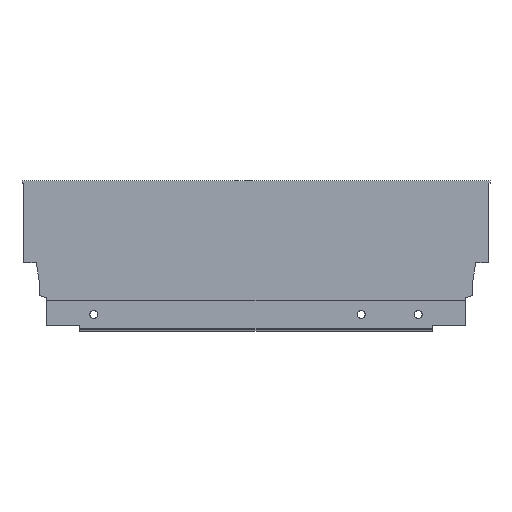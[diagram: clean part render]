
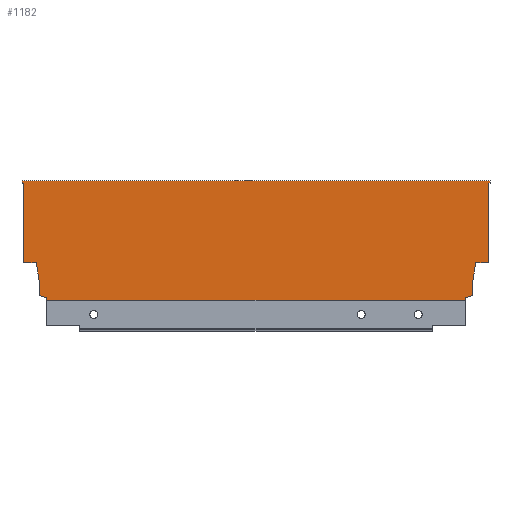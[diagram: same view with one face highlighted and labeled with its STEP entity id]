
A CAD part, top view. The second image highlights one B-rep face of the part: STEP entity #1182.
In plain terms, the highlighted planar face has unit normal (0, 0, 1).
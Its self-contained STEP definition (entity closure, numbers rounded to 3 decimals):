
#97 = VECTOR ( 'NONE', #933, 1000. ) ;
#103 = VECTOR ( 'NONE', #929, 1000. ) ;
#106 = LINE ( 'NONE', #928, #97 ) ;
#107 = VECTOR ( 'NONE', #925, 1000. ) ;
#108 = LINE ( 'NONE', #926, #103 ) ;
#109 = VECTOR ( 'NONE', #923, 1000. ) ;
#110 = VECTOR ( 'NONE', #921, 1000. ) ;
#111 = LINE ( 'NONE', #920, #110 ) ;
#113 = VECTOR ( 'NONE', #919, 1000. ) ;
#114 = LINE ( 'NONE', #922, #107 ) ;
#115 = VECTOR ( 'NONE', #917, 1000. ) ;
#116 = LINE ( 'NONE', #918, #109 ) ;
#117 = VECTOR ( 'NONE', #915, 1000. ) ;
#118 = LINE ( 'NONE', #916, #113 ) ;
#119 = VECTOR ( 'NONE', #913, 1000. ) ;
#120 = LINE ( 'NONE', #914, #115 ) ;
#136 = VECTOR ( 'NONE', #911, 1000. ) ;
#137 = LINE ( 'NONE', #912, #117 ) ;
#138 = VECTOR ( 'NONE', #909, 1000. ) ;
#140 = LINE ( 'NONE', #899, #138 ) ;
#141 = LINE ( 'NONE', #910, #119 ) ;
#144 = VECTOR ( 'NONE', #907, 1000. ) ;
#145 = LINE ( 'NONE', #908, #136 ) ;
#146 = LINE ( 'NONE', #906, #144 ) ;
#178 = LINE ( 'NONE', #846, #183 ) ;
#183 = VECTOR ( 'NONE', #855, 1000. ) ;
#189 = VECTOR ( 'NONE', #842, 1000. ) ;
#196 = LINE ( 'NONE', #841, #189 ) ;
#226 = FACE_OUTER_BOUND ( 'NONE', #254, .T. ) ;
#234 = ORIENTED_EDGE ( 'NONE', *, *, #1359, .F. ) ;
#236 = ORIENTED_EDGE ( 'NONE', *, *, #1357, .F. ) ;
#237 = ORIENTED_EDGE ( 'NONE', *, *, #1459, .T. ) ;
#238 = ORIENTED_EDGE ( 'NONE', *, *, #1462, .F. ) ;
#239 = ORIENTED_EDGE ( 'NONE', *, *, #1355, .F. ) ;
#240 = ORIENTED_EDGE ( 'NONE', *, *, #1354, .F. ) ;
#254 = EDGE_LOOP ( 'NONE', ( #439, #440, #441, #442, #443, #444, #240, #239, #238, #237, #236, #234, #1664, #1667, #1665, #1663, #1666, #1662 ) ) ;
#439 = ORIENTED_EDGE ( 'NONE', *, *, #1351, .F. ) ;
#440 = ORIENTED_EDGE ( 'NONE', *, *, #1320, .F. ) ;
#441 = ORIENTED_EDGE ( 'NONE', *, *, #1457, .T. ) ;
#442 = ORIENTED_EDGE ( 'NONE', *, *, #1352, .T. ) ;
#443 = ORIENTED_EDGE ( 'NONE', *, *, #1353, .F. ) ;
#444 = ORIENTED_EDGE ( 'NONE', *, *, #1458, .F. ) ;
#458 = VERTEX_POINT ( 'NONE', #557 ) ;
#460 = VERTEX_POINT ( 'NONE', #559 ) ;
#467 = VERTEX_POINT ( 'NONE', #566 ) ;
#468 = VERTEX_POINT ( 'NONE', #567 ) ;
#473 = VERTEX_POINT ( 'NONE', #572 ) ;
#474 = VERTEX_POINT ( 'NONE', #573 ) ;
#483 = VERTEX_POINT ( 'NONE', #582 ) ;
#486 = VERTEX_POINT ( 'NONE', #585 ) ;
#490 = VERTEX_POINT ( 'NONE', #589 ) ;
#493 = VERTEX_POINT ( 'NONE', #592 ) ;
#501 = VERTEX_POINT ( 'NONE', #600 ) ;
#506 = VERTEX_POINT ( 'NONE', #605 ) ;
#513 = VERTEX_POINT ( 'NONE', #612 ) ;
#514 = VERTEX_POINT ( 'NONE', #613 ) ;
#515 = VERTEX_POINT ( 'NONE', #614 ) ;
#519 = VERTEX_POINT ( 'NONE', #618 ) ;
#523 = VERTEX_POINT ( 'NONE', #622 ) ;
#537 = VERTEX_POINT ( 'NONE', #636 ) ;
#557 = CARTESIAN_POINT ( 'NONE',  ( 1., 68., 7.5 ) ) ;
#559 = CARTESIAN_POINT ( 'NONE',  ( -7.06, 21.2, 7.5 ) ) ;
#566 = CARTESIAN_POINT ( 'NONE',  ( -265., 21.2, 7.5 ) ) ;
#567 = CARTESIAN_POINT ( 'NONE',  ( -265., 66.5, 7.5 ) ) ;
#572 = CARTESIAN_POINT ( 'NONE',  ( -8.9, 2.64, 7.5 ) ) ;
#573 = CARTESIAN_POINT ( 'NONE',  ( -251.996, 1.146, 7.5 ) ) ;
#582 = CARTESIAN_POINT ( 'NONE',  ( 1., 66.5, 7.5 ) ) ;
#585 = CARTESIAN_POINT ( 'NONE',  ( -257.94, 21.2, 7.5 ) ) ;
#589 = CARTESIAN_POINT ( 'NONE',  ( -8.9, 10.765, 7.5 ) ) ;
#592 = CARTESIAN_POINT ( 'NONE',  ( 0., 66.5, 7.5 ) ) ;
#600 = CARTESIAN_POINT ( 'NONE',  ( 0., 21.2, 7.5 ) ) ;
#605 = CARTESIAN_POINT ( 'NONE',  ( -13.004, 1.146, 7.5 ) ) ;
#612 = CARTESIAN_POINT ( 'NONE',  ( -256.1, 10.765, 7.5 ) ) ;
#613 = CARTESIAN_POINT ( 'NONE',  ( -266., 68., 7.5 ) ) ;
#614 = CARTESIAN_POINT ( 'NONE',  ( -266., 66.5, 7.5 ) ) ;
#618 = CARTESIAN_POINT ( 'NONE',  ( -13.004, 0., 7.5 ) ) ;
#622 = CARTESIAN_POINT ( 'NONE',  ( -256.1, 2.64, 7.5 ) ) ;
#636 = CARTESIAN_POINT ( 'NONE',  ( -251.996, 0., 7.5 ) ) ;
#721 = PLANE ( 'NONE',  #1491 ) ;
#735 = CARTESIAN_POINT ( 'NONE',  ( -265., 0., 7.5 ) ) ;
#741 = DIRECTION ( 'NONE',  ( 0., 0., 1. ) ) ;
#742 = DIRECTION ( 'NONE',  ( 1., 0., 0. ) ) ;
#841 = CARTESIAN_POINT ( 'NONE',  ( -266., 66.5, 7.5 ) ) ;
#842 = DIRECTION ( 'NONE',  ( 0., 1., 0. ) ) ;
#846 = CARTESIAN_POINT ( 'NONE',  ( 0., 0., 7.5 ) ) ;
#855 = DIRECTION ( 'NONE',  ( 0., -1., 0. ) ) ;
#899 = CARTESIAN_POINT ( 'NONE',  ( -265., 0., 7.5 ) ) ;
#906 = CARTESIAN_POINT ( 'NONE',  ( -265., 68., 7.5 ) ) ;
#907 = DIRECTION ( 'NONE',  ( 1., 0., 0. ) ) ;
#908 = CARTESIAN_POINT ( 'NONE',  ( -270., 21.2, 7.5 ) ) ;
#909 = DIRECTION ( 'NONE',  ( 0., -1., 0. ) ) ;
#910 = CARTESIAN_POINT ( 'NONE',  ( -256.1, 10.765, 7.5 ) ) ;
#911 = DIRECTION ( 'NONE',  ( -1., 0., 0. ) ) ;
#912 = CARTESIAN_POINT ( 'NONE',  ( -256.1, 2.64, 7.5 ) ) ;
#913 = DIRECTION ( 'NONE',  ( 0., 1., 0. ) ) ;
#914 = CARTESIAN_POINT ( 'NONE',  ( -8.9, 10.765, 7.5 ) ) ;
#915 = DIRECTION ( 'NONE',  ( -0.94, 0.342, 0. ) ) ;
#916 = CARTESIAN_POINT ( 'NONE',  ( -13.004, 1.146, 7.5 ) ) ;
#917 = DIRECTION ( 'NONE',  ( 0., -1., 0. ) ) ;
#918 = CARTESIAN_POINT ( 'NONE',  ( -8.9, 2.64, 7.5 ) ) ;
#919 = DIRECTION ( 'NONE',  ( 0., -1., 0. ) ) ;
#920 = CARTESIAN_POINT ( 'NONE',  ( -7.06, 21.2, 7.5 ) ) ;
#921 = DIRECTION ( 'NONE',  ( -0.174, -0.985, 0. ) ) ;
#922 = CARTESIAN_POINT ( 'NONE',  ( 0., 21.2, 7.5 ) ) ;
#923 = DIRECTION ( 'NONE',  ( -0.94, -0.342, 0. ) ) ;
#925 = DIRECTION ( 'NONE',  ( -1., 0., 0. ) ) ;
#926 = CARTESIAN_POINT ( 'NONE',  ( 1., 66.5, 7.5 ) ) ;
#928 = CARTESIAN_POINT ( 'NONE',  ( 1., 68., 7.5 ) ) ;
#929 = DIRECTION ( 'NONE',  ( -1., 0., 0. ) ) ;
#933 = DIRECTION ( 'NONE',  ( 0., -1., 0. ) ) ;
#1122 = CARTESIAN_POINT ( 'NONE',  ( -266., 66.5, 7.5 ) ) ;
#1123 = DIRECTION ( 'NONE',  ( 1., 0., 0. ) ) ;
#1124 = CARTESIAN_POINT ( 'NONE',  ( -257.94, 21.2, 7.5 ) ) ;
#1125 = DIRECTION ( 'NONE',  ( -0.174, 0.985, 0. ) ) ;
#1126 = CARTESIAN_POINT ( 'NONE',  ( -265., 0., 7.5 ) ) ;
#1127 = DIRECTION ( 'NONE',  ( 1., 0., 0. ) ) ;
#1132 = CARTESIAN_POINT ( 'NONE',  ( -251.996, 1.146, 7.5 ) ) ;
#1133 = DIRECTION ( 'NONE',  ( 0., 1., 0. ) ) ;
#1182 = ADVANCED_FACE ( 'NONE', ( #226 ), #721, .T. ) ;
#1218 = VECTOR ( 'NONE', #1127, 1000. ) ;
#1219 = LINE ( 'NONE', #1126, #1218 ) ;
#1220 = VECTOR ( 'NONE', #1125, 1000. ) ;
#1221 = LINE ( 'NONE', #1124, #1220 ) ;
#1222 = VECTOR ( 'NONE', #1123, 1000. ) ;
#1223 = LINE ( 'NONE', #1122, #1222 ) ;
#1239 = LINE ( 'NONE', #1132, #1247 ) ;
#1247 = VECTOR ( 'NONE', #1133, 1000. ) ;
#1320 = EDGE_CURVE ( 'NONE', #515, #514, #196, .T. ) ;
#1328 = EDGE_CURVE ( 'NONE', #493, #501, #178, .T. ) ;
#1351 = EDGE_CURVE ( 'NONE', #514, #458, #146, .T. ) ;
#1352 = EDGE_CURVE ( 'NONE', #468, #467, #140, .T. ) ;
#1353 = EDGE_CURVE ( 'NONE', #486, #467, #145, .T. ) ;
#1354 = EDGE_CURVE ( 'NONE', #523, #513, #141, .T. ) ;
#1355 = EDGE_CURVE ( 'NONE', #474, #523, #137, .T. ) ;
#1356 = EDGE_CURVE ( 'NONE', #490, #473, #120, .T. ) ;
#1357 = EDGE_CURVE ( 'NONE', #506, #519, #118, .T. ) ;
#1358 = EDGE_CURVE ( 'NONE', #460, #490, #111, .T. ) ;
#1359 = EDGE_CURVE ( 'NONE', #473, #506, #116, .T. ) ;
#1360 = EDGE_CURVE ( 'NONE', #501, #460, #114, .T. ) ;
#1362 = EDGE_CURVE ( 'NONE', #483, #493, #108, .T. ) ;
#1364 = EDGE_CURVE ( 'NONE', #458, #483, #106, .T. ) ;
#1457 = EDGE_CURVE ( 'NONE', #515, #468, #1223, .T. ) ;
#1458 = EDGE_CURVE ( 'NONE', #513, #486, #1221, .T. ) ;
#1459 = EDGE_CURVE ( 'NONE', #537, #519, #1219, .T. ) ;
#1462 = EDGE_CURVE ( 'NONE', #537, #474, #1239, .T. ) ;
#1491 = AXIS2_PLACEMENT_3D ( 'NONE', #735, #741, #742 ) ;
#1662 = ORIENTED_EDGE ( 'NONE', *, *, #1364, .F. ) ;
#1663 = ORIENTED_EDGE ( 'NONE', *, *, #1328, .F. ) ;
#1664 = ORIENTED_EDGE ( 'NONE', *, *, #1356, .F. ) ;
#1665 = ORIENTED_EDGE ( 'NONE', *, *, #1360, .F. ) ;
#1666 = ORIENTED_EDGE ( 'NONE', *, *, #1362, .F. ) ;
#1667 = ORIENTED_EDGE ( 'NONE', *, *, #1358, .F. ) ;
